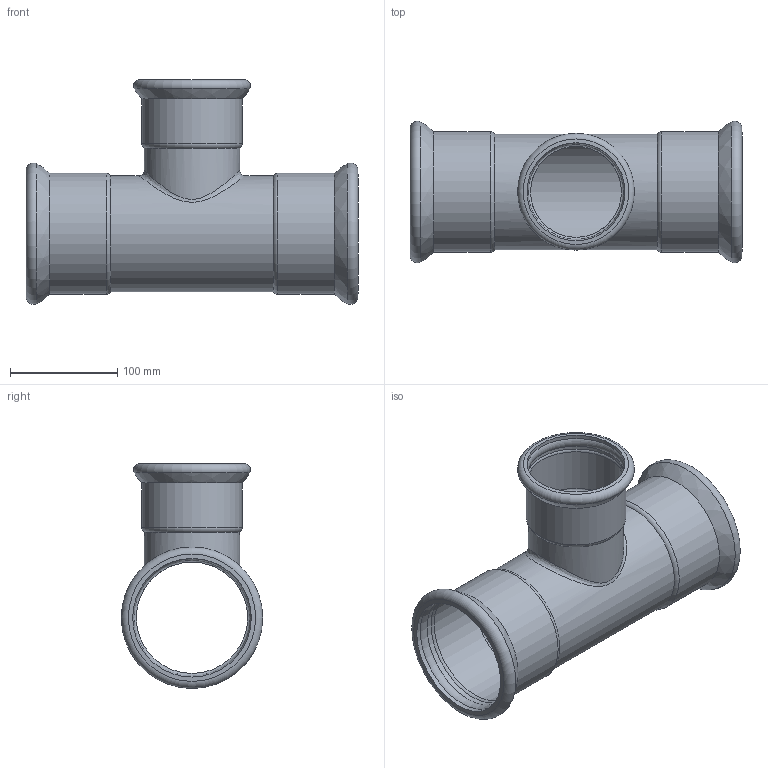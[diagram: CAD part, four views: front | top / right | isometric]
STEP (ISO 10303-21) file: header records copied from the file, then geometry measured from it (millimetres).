
FILE_DESCRIPTION(/* description */ ('TEE RIDOTTO 108-88,9-108'),/* implementation_level */ '2;1');
FILE_NAME(/* name */ 'R:\Disegni3D_Area_Manager\Steelpres.step\392_STEELPRES\392108088_Steelpres.stp',/* time_stamp */ '2022-10-21T14:43:28+02:00',/* author */ ('Vault'),/* organization */ ('Raccorderie metalliche s.p.a. '),/* preprocessor_version */ 'ST-DEVELOPER v18.1',/* originating_system */ 'Autodesk Inventor 2020',/* authorisation */ 'Raccorderie metalliche s.p.a. ');
FILE_SCHEMA (('AUTOMOTIVE_DESIGN { 1 0 10303 214 3 1 1 }'));
Length unit declared in the file: millimetre
Products named in the file (1): 392108088_Steelpres
Bounding box: 310 x 132.09 x 210.04 mm (x, y, z)
Volume: 386712.6 mm3; surface area: 270774.4 mm2
Topology: 1 solids, 1 shells, 39 faces, 141 edges, 102 vertices
Faces by surface type: cylinder 16, torus 15, bspline 5, cone 3
Full cylindrical faces by diameter (mm): 84.9 x1, 88.9 x1, 89.6 x1, 91.5 x2, 93.6 x1, 104 x1, 108 x1, 108.8 x2, 110.7 x4, 112.8 x2
Entity records: 2322 total; most frequent: CARTESIAN_POINT 949, DIRECTION 323, ORIENTED_EDGE 286, AXIS2_PLACEMENT_3D 151, EDGE_CURVE 143, CIRCLE 116, VERTEX_POINT 104, EDGE_LOOP 41
